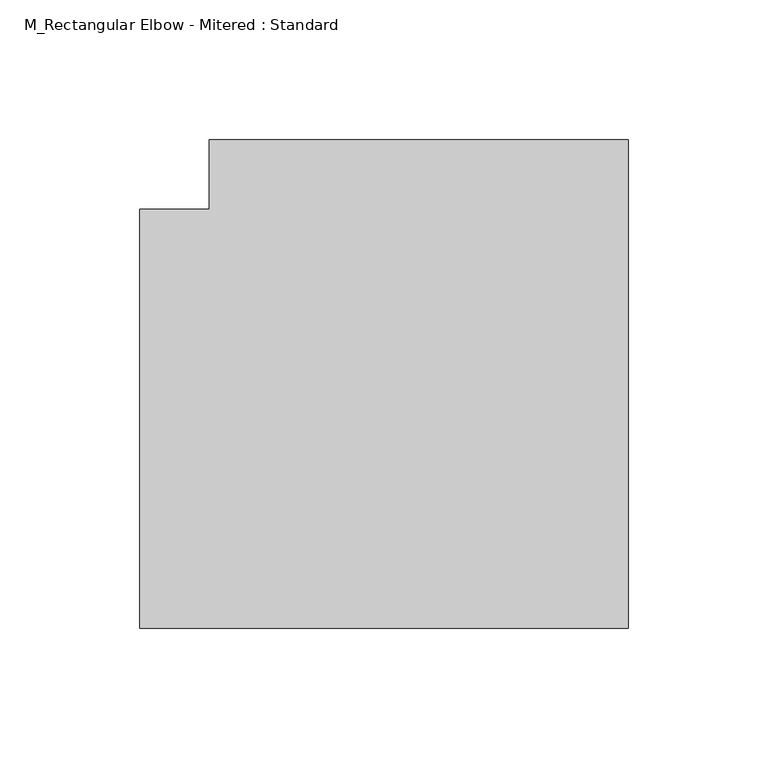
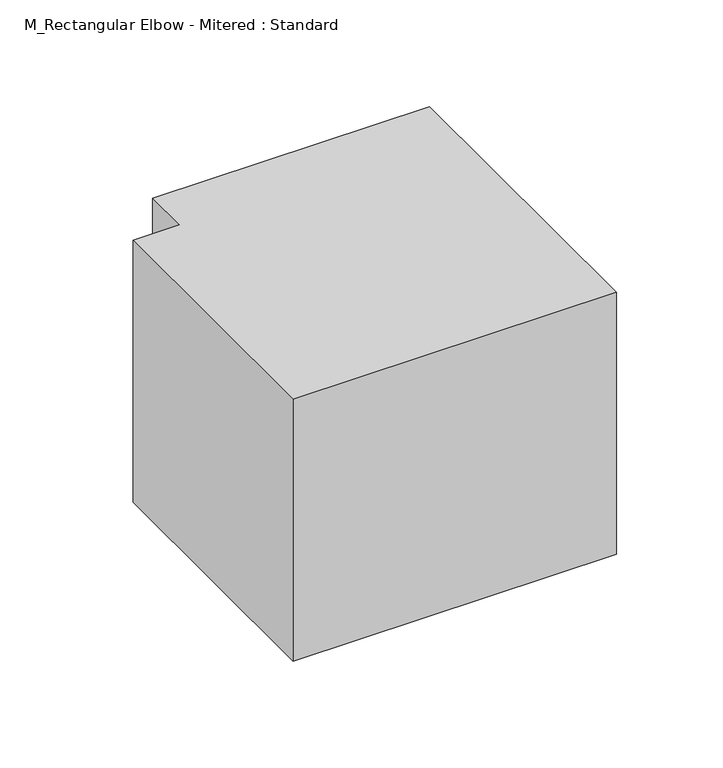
"""IFC4 building model written with IfcOpenShell, lengths in millimetres: duct fitting geometry, M_Rectangular Elbow - Mitered : Standard."""

from ifc_helpers import new_model, si_unit, frame, origin, place, context, project, spatial, polyline, outline, extrude, source, transform, mapped, element, save


def m_rectangular_elbow_mitered_standard_811467a6(model_context):
    return source(origin(), model_context, "Body", "SweptSolid", [
        extrude(outline(polyline([(-100.0, -75.0), (-100.0, 75.0), (-75.0, 75.0), (-75.0, 100.0), (75.0, 100.0), (75.0, -75.0), (-100.0, -75.0)])), frame((0.0, 0.0, -75.0), z_axis=(0.0, 0.0, 1.0), x_axis=(1.0, 0.0, 0.0)), (0.0, 0.0, 1.0), 150.0),
        extrude(outline(polyline([(-100.0, -75.0), (-100.0, 75.0), (-75.0, 75.0), (-75.0, 100.0), (75.0, 100.0), (75.0, -75.0), (-100.0, -75.0)])), frame((0.0, 0.0, -75.0), z_axis=(0.0, 0.0, 1.0), x_axis=(1.0, 0.0, 0.0)), (0.0, 0.0, 1.0), 150.0),
        extrude(outline(polyline([(-100.0, -75.0), (-100.0, 75.0), (-75.0, 75.0), (-75.0, 100.0), (75.0, 100.0), (75.0, -75.0), (-100.0, -75.0)])), frame((0.0, 0.0, -75.0), z_axis=(0.0, 0.0, 1.0), x_axis=(1.0, 0.0, 0.0)), (0.0, 0.0, 1.0), 150.0),
    ])


if __name__ == "__main__":
    model = new_model("IFC4")
    model_context = context("Model", 3, world=origin())
    ifc_project = project(units=[si_unit("LENGTHUNIT", "METRE", prefix="MILLI")], contexts=[model_context])
    site = spatial("IfcSite", under=ifc_project)
    building = spatial("IfcBuilding", under=site)
    placement = place(None, origin())
    m_rectangular_elbow_mitered_standard_shape = m_rectangular_elbow_mitered_standard_811467a6(model_context)
    element("IfcDuctFitting", 1, ObjectType="M_Rectangular Elbow - Mitered : Standard", at=placement, inside=building, context=model_context, shape_type="MappedRepresentation", body=[
        mapped(m_rectangular_elbow_mitered_standard_shape, transform((0.0, 0.0, 0.0), x_axis=(1.0, 0.0, 0.0), y_axis=(0.0, 1.0, 0.0), z_axis=(0.0, 0.0, 1.0))),
    ])
    save(model, "model.ifc")
